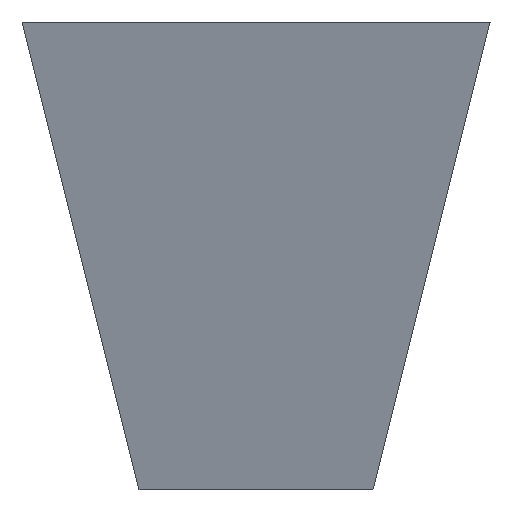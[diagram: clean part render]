
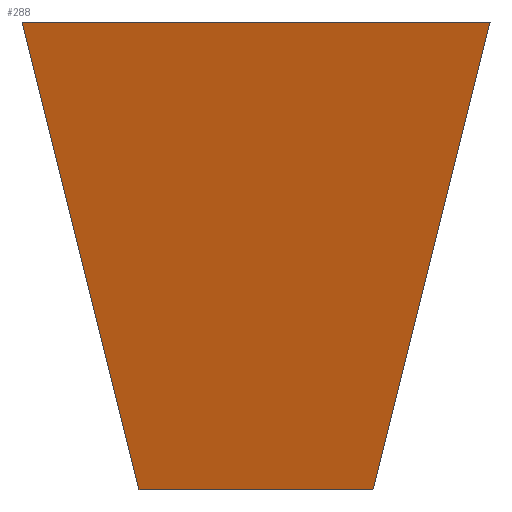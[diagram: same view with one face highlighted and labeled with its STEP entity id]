
A CAD part, left-side view. The second image highlights one B-rep face of the part: STEP entity #288.
In plain terms, the highlighted free-form (B-spline) face has degree [1, 1] with [2, 2] control points.
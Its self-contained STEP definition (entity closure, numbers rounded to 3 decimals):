
#33 = VERTEX_POINT('',#34);
#34 = CARTESIAN_POINT('',(-10.,5.,0.));
#43 = B_SPLINE_SURFACE_WITH_KNOTS('',1,1,(
    (#44,#45)
    ,(#46,#47)),.UNSPECIFIED.,.F.,.F.,.F.,(2,2),(2,2),(0.,30.),(0.,1.),
  .PIECEWISE_BEZIER_KNOTS.);
#44 = CARTESIAN_POINT('',(-10.,5.,0.));
#45 = CARTESIAN_POINT('',(-15.,10.,20.));
#46 = CARTESIAN_POINT('',(10.,5.,0.));
#47 = CARTESIAN_POINT('',(15.,10.,20.));
#54 = PLANE('',#55);
#55 = AXIS2_PLACEMENT_3D('',#56,#57,#58);
#56 = CARTESIAN_POINT('',(-10.,5.,0.));
#57 = DIRECTION('',(-0.,0.,1.));
#58 = DIRECTION('',(0.894,-0.447,0.));
#94 = VERTEX_POINT('',#95);
#95 = CARTESIAN_POINT('',(-15.,10.,20.));
#109 = PLANE('',#110);
#110 = AXIS2_PLACEMENT_3D('',#111,#112,#113);
#111 = CARTESIAN_POINT('',(-15.,10.,20.));
#112 = DIRECTION('',(-0.,0.,1.));
#113 = DIRECTION('',(0.832,-0.555,0.));
#121 = EDGE_CURVE('',#33,#94,#122,.T.);
#122 = SURFACE_CURVE('',#123,(#126,#133),.PCURVE_S1.);
#123 = B_SPLINE_CURVE_WITH_KNOTS('',1,(#124,#125),.UNSPECIFIED.,.F.,.F.,
  (2,2),(0.,1.),.PIECEWISE_BEZIER_KNOTS.);
#124 = CARTESIAN_POINT('',(-10.,5.,0.));
#125 = CARTESIAN_POINT('',(-15.,10.,20.));
#126 = PCURVE('',#43,#127);
#127 = DEFINITIONAL_REPRESENTATION('',(#128),#132);
#128 = LINE('',#129,#130);
#129 = CARTESIAN_POINT('',(0.,0.));
#130 = VECTOR('',#131,1.);
#131 = DIRECTION('',(0.,1.));
#132 = ( GEOMETRIC_REPRESENTATION_CONTEXT(2) 
PARAMETRIC_REPRESENTATION_CONTEXT() REPRESENTATION_CONTEXT('2D SPACE',''
  ) );
#133 = PCURVE('',#134,#139);
#134 = B_SPLINE_SURFACE_WITH_KNOTS('',1,1,(
    (#135,#136)
    ,(#137,#138
  )),.UNSPECIFIED.,.F.,.F.,.F.,(2,2),(2,2),(0.,20.),(0.,1.),
  .PIECEWISE_BEZIER_KNOTS.);
#135 = CARTESIAN_POINT('',(-10.,-5.,0.));
#136 = CARTESIAN_POINT('',(-15.,-10.,20.));
#137 = CARTESIAN_POINT('',(-10.,5.,0.));
#138 = CARTESIAN_POINT('',(-15.,10.,20.));
#139 = DEFINITIONAL_REPRESENTATION('',(#140),#144);
#140 = LINE('',#141,#142);
#141 = CARTESIAN_POINT('',(20.,0.));
#142 = VECTOR('',#143,1.);
#143 = DIRECTION('',(0.,1.));
#144 = ( GEOMETRIC_REPRESENTATION_CONTEXT(2) 
PARAMETRIC_REPRESENTATION_CONTEXT() REPRESENTATION_CONTEXT('2D SPACE',''
  ) );
#186 = B_SPLINE_SURFACE_WITH_KNOTS('',1,1,(
    (#187,#188)
    ,(#189,#190
  )),.UNSPECIFIED.,.F.,.F.,.F.,(2,2),(2,2),(0.,30.),(0.,1.),
  .PIECEWISE_BEZIER_KNOTS.);
#187 = CARTESIAN_POINT('',(10.,-5.,0.));
#188 = CARTESIAN_POINT('',(15.,-10.,20.));
#189 = CARTESIAN_POINT('',(-10.,-5.,0.));
#190 = CARTESIAN_POINT('',(-15.,-10.,20.));
#224 = VERTEX_POINT('',#225);
#225 = CARTESIAN_POINT('',(-10.,-5.,0.));
#245 = EDGE_CURVE('',#224,#246,#248,.T.);
#246 = VERTEX_POINT('',#247);
#247 = CARTESIAN_POINT('',(-15.,-10.,20.));
#248 = SURFACE_CURVE('',#249,(#252,#259),.PCURVE_S1.);
#249 = B_SPLINE_CURVE_WITH_KNOTS('',1,(#250,#251),.UNSPECIFIED.,.F.,.F.,
  (2,2),(0.,1.),.PIECEWISE_BEZIER_KNOTS.);
#250 = CARTESIAN_POINT('',(-10.,-5.,0.));
#251 = CARTESIAN_POINT('',(-15.,-10.,20.));
#252 = PCURVE('',#186,#253);
#253 = DEFINITIONAL_REPRESENTATION('',(#254),#258);
#254 = LINE('',#255,#256);
#255 = CARTESIAN_POINT('',(30.,0.));
#256 = VECTOR('',#257,1.);
#257 = DIRECTION('',(0.,1.));
#258 = ( GEOMETRIC_REPRESENTATION_CONTEXT(2) 
PARAMETRIC_REPRESENTATION_CONTEXT() REPRESENTATION_CONTEXT('2D SPACE',''
  ) );
#259 = PCURVE('',#134,#260);
#260 = DEFINITIONAL_REPRESENTATION('',(#261),#265);
#261 = LINE('',#262,#263);
#262 = CARTESIAN_POINT('',(0.,0.));
#263 = VECTOR('',#264,1.);
#264 = DIRECTION('',(0.,1.));
#265 = ( GEOMETRIC_REPRESENTATION_CONTEXT(2) 
PARAMETRIC_REPRESENTATION_CONTEXT() REPRESENTATION_CONTEXT('2D SPACE',''
  ) );
#288 = ADVANCED_FACE('',(#289),#134,.F.);
#289 = FACE_BOUND('',#290,.F.);
#290 = EDGE_LOOP('',(#291,#311,#312,#333));
#291 = ORIENTED_EDGE('',*,*,#292,.T.);
#292 = EDGE_CURVE('',#224,#33,#293,.T.);
#293 = SURFACE_CURVE('',#294,(#298,#304),.PCURVE_S1.);
#294 = LINE('',#295,#296);
#295 = CARTESIAN_POINT('',(-10.,-5.,0.));
#296 = VECTOR('',#297,1.);
#297 = DIRECTION('',(0.,1.,0.));
#298 = PCURVE('',#134,#299);
#299 = DEFINITIONAL_REPRESENTATION('',(#300),#303);
#300 = B_SPLINE_CURVE_WITH_KNOTS('',1,(#301,#302),.UNSPECIFIED.,.F.,.F.,
  (2,2),(0.,10.),.PIECEWISE_BEZIER_KNOTS.);
#301 = CARTESIAN_POINT('',(0.,0.));
#302 = CARTESIAN_POINT('',(20.,0.));
#303 = ( GEOMETRIC_REPRESENTATION_CONTEXT(2) 
PARAMETRIC_REPRESENTATION_CONTEXT() REPRESENTATION_CONTEXT('2D SPACE',''
  ) );
#304 = PCURVE('',#54,#305);
#305 = DEFINITIONAL_REPRESENTATION('',(#306),#310);
#306 = LINE('',#307,#308);
#307 = CARTESIAN_POINT('',(4.472,-8.944));
#308 = VECTOR('',#309,1.);
#309 = DIRECTION('',(-0.447,0.894));
#310 = ( GEOMETRIC_REPRESENTATION_CONTEXT(2) 
PARAMETRIC_REPRESENTATION_CONTEXT() REPRESENTATION_CONTEXT('2D SPACE',''
  ) );
#311 = ORIENTED_EDGE('',*,*,#121,.T.);
#312 = ORIENTED_EDGE('',*,*,#313,.F.);
#313 = EDGE_CURVE('',#246,#94,#314,.T.);
#314 = SURFACE_CURVE('',#315,(#319,#326),.PCURVE_S1.);
#315 = LINE('',#316,#317);
#316 = CARTESIAN_POINT('',(-15.,-10.,20.));
#317 = VECTOR('',#318,1.);
#318 = DIRECTION('',(0.,1.,0.));
#319 = PCURVE('',#134,#320);
#320 = DEFINITIONAL_REPRESENTATION('',(#321),#325);
#321 = LINE('',#322,#323);
#322 = CARTESIAN_POINT('',(0.,1.));
#323 = VECTOR('',#324,1.);
#324 = DIRECTION('',(1.,0.));
#325 = ( GEOMETRIC_REPRESENTATION_CONTEXT(2) 
PARAMETRIC_REPRESENTATION_CONTEXT() REPRESENTATION_CONTEXT('2D SPACE',''
  ) );
#326 = PCURVE('',#109,#327);
#327 = DEFINITIONAL_REPRESENTATION('',(#328),#332);
#328 = LINE('',#329,#330);
#329 = CARTESIAN_POINT('',(11.094,-16.641));
#330 = VECTOR('',#331,1.);
#331 = DIRECTION('',(-0.555,0.832));
#332 = ( GEOMETRIC_REPRESENTATION_CONTEXT(2) 
PARAMETRIC_REPRESENTATION_CONTEXT() REPRESENTATION_CONTEXT('2D SPACE',''
  ) );
#333 = ORIENTED_EDGE('',*,*,#245,.F.);
